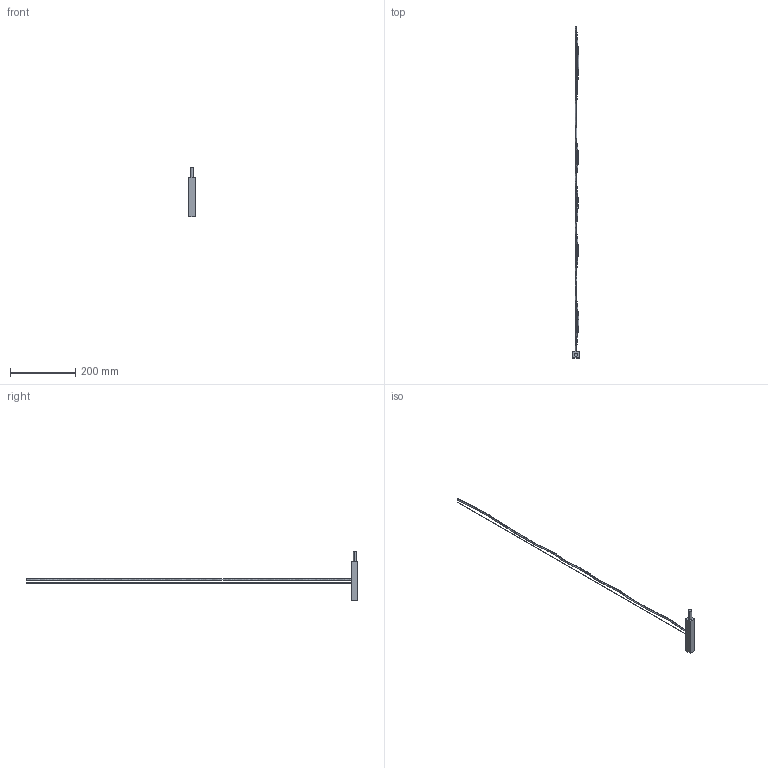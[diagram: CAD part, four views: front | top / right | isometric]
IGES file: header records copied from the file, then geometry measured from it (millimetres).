
Start section: SolidWorks IGES file using analytic representation for surfaces
Global section: file name: C:\Users\tungari.NEMOLIGHTING\Desktop\3D\SYSTEMS\3D_LINESCAPES_SYSTEMS\3D_LINESCAPES_HORIZ_START\3D_LINESCAPES_HORIZ_START.IGS; native system: SolidWorks 2016; preprocessor: SolidWorks 2016; author: tungari; date: 180409.125838; units: millimetre
Bounding box: 20 x 1015 x 151 mm (x, y, z)
Surface area: 30358.3 mm2 (no closed solid volume)
Topology: 0 solids, 0 shells, 18 faces, 208 edges, 208 vertices
Faces by surface type: bspline 14, revolution 4
